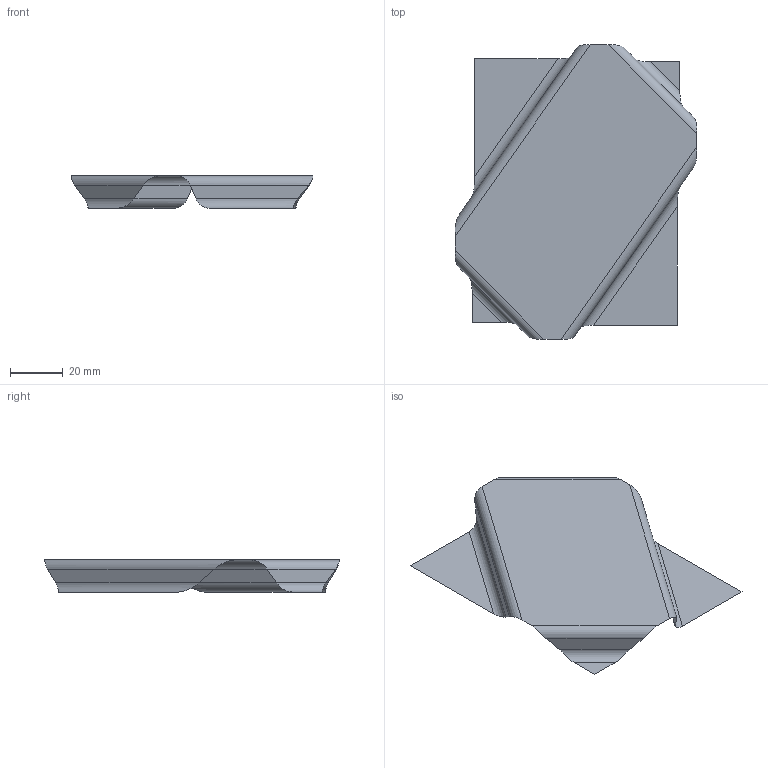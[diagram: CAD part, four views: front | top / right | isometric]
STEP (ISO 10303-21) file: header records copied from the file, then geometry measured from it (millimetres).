
FILE_DESCRIPTION(('CATIA V5 STEP Exchange'),'2;1');
FILE_NAME('C:\_Andres\UNIVERSIDAD\IQS\ASIGNATURAS\DAO\EXF\EXF-15161c\1original\Aranda_Gil_Ej03-chapa_v2.stp','2016-03-04T16:55:36+00:00',('none'),('none'),'CATIA Version 5 Release 20 SP 1 (IN-10)','CATIA V5 STEP AP203','none');
FILE_SCHEMA(('CONFIG_CONTROL_DESIGN'));
Length unit declared in the file: millimetre
Products named in the file (1): Aranda_Gil_Ej03-chapa_v2
Bounding box: 92.01 x 112.01 x 12.29 mm (x, y, z)
Surface area: 10340.2 mm2 (no closed solid volume)
Topology: 0 solids, 1 shells, 17 faces, 52 edges, 36 vertices
Faces by surface type: plane 9, cylinder 8
Entity records: 625 total; most frequent: CARTESIAN_POINT 200, ORIENTED_EDGE 68, DIRECTION 59, EDGE_CURVE 52, VERTEX_POINT 36, B_SPLINE_CURVE_WITH_KNOTS 29, VECTOR 23, LINE 23
